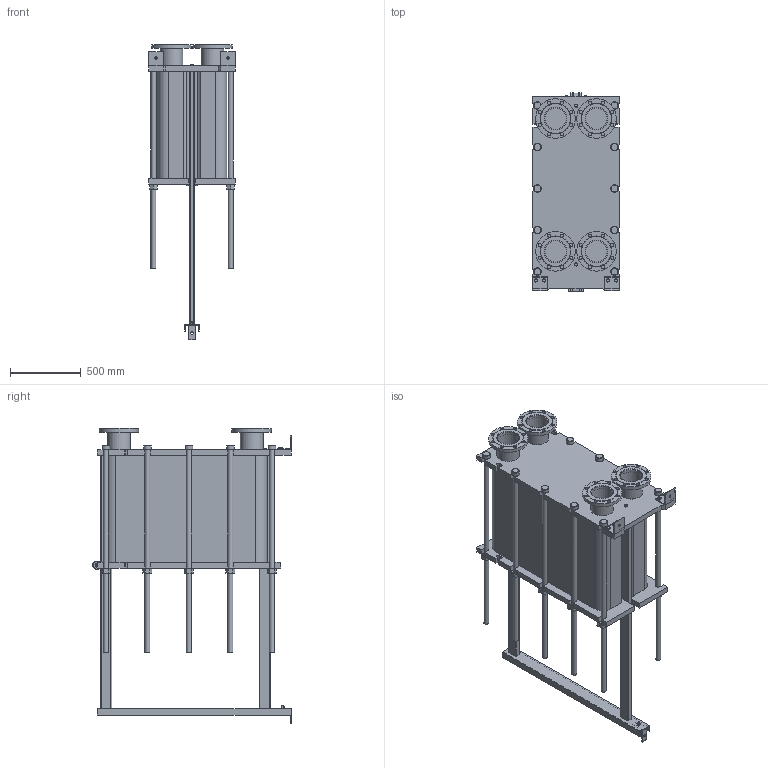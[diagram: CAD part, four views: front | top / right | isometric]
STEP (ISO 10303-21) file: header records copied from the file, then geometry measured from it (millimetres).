
FILE_DESCRIPTION(/* description */ (''),/* implementation_level */ '2;1');
FILE_NAME(/* name */ 'C:\Users\zhuro\Desktop\ENCO\TO\ЭН-041\ЭН-0,5-041-220-1.stp',/* time_stamp */ '2022-06-06T11:07:23+03:00',/* author */ ('zhuro'),/* organization */ (''),/* preprocessor_version */ 'ST-DEVELOPER v18.1',/* originating_system */ 'Autodesk Inventor 2022',/* authorisation */ '');
FILE_SCHEMA (('AUTOMOTIVE_DESIGN { 1 0 10303 214 3 1 1 }'));
Length unit declared in the file: millimetre
Products named in the file (1): ЭН-0,5-041-220-1
Bounding box: 610 x 1406.5 x 2090 mm (x, y, z)
Volume: 515795753.5 mm3; surface area: 11670412.7 mm2
Topology: 52 solids, 52 shells, 711 faces, 1696 edges, 1094 vertices
Faces by surface type: plane 487, cylinder 177, cone 41, torus 6
Full cylindrical faces by diameter (mm): 8 x4, 10 x2, 16 x8, 18 x3, 22 x32, 36 x24, 50 x1, 54 x10, 60 x12, 151 x4, 161 x8, 280 x4
Entity records: 22667 total; most frequent: CARTESIAN_POINT 5230, DIRECTION 3644, ORIENTED_EDGE 3392, EDGE_CURVE 1696, AXIS2_PLACEMENT_3D 1272, LINE 1100, VECTOR 1100, VERTEX_POINT 1094
